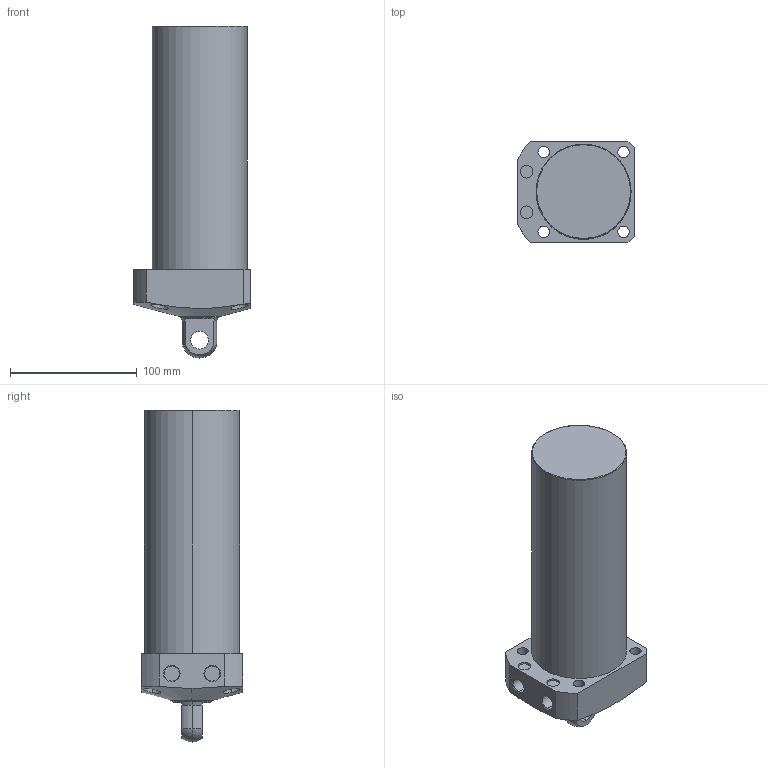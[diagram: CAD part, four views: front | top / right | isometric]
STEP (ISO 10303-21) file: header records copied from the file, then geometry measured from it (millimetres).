
FILE_DESCRIPTION (( 'STEP AP203' ), '1' );
FILE_NAME ('CLL-075CP-155.STEP', '2019-12-25T08:00:13', ( '' ), ( '' ), 'SwSTEP 2.0', 'SolidWorks 2015', '' );
FILE_SCHEMA (( 'CONFIG_CONTROL_DESIGN' ));
Length unit declared in the file: millimetre
Products named in the file (1): CLL-075CP-155
Bounding box: 92 x 80 x 262 mm (x, y, z)
Volume: 1075671.9 mm3; surface area: 77142.6 mm2
Topology: 1 solids, 1 shells, 68 faces, 159 edges, 103 vertices
Faces by surface type: cylinder 35, plane 21, cone 8, sphere 2, torus 2
Entity records: 2459 total; most frequent: CARTESIAN_POINT 762, DIRECTION 357, ORIENTED_EDGE 318, EDGE_CURVE 159, AXIS2_PLACEMENT_3D 149, VERTEX_POINT 103, EDGE_LOOP 88, CIRCLE 80
